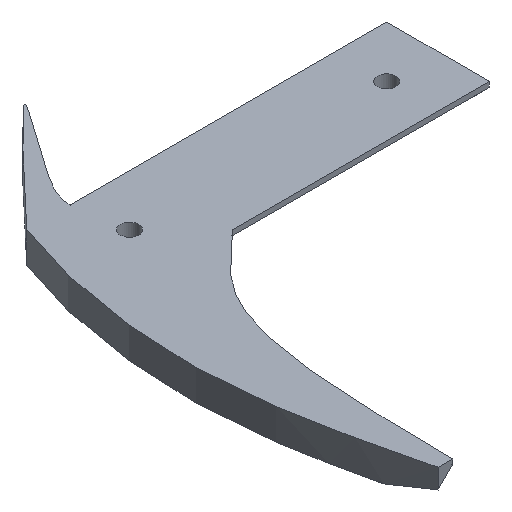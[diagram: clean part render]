
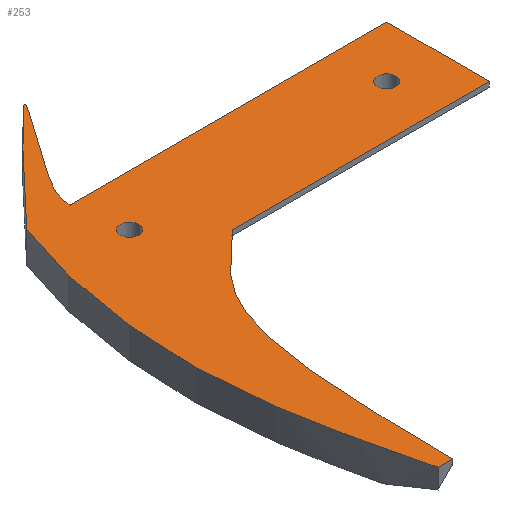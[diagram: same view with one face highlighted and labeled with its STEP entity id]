
A CAD part, isometric view. The second image highlights one B-rep face of the part: STEP entity #253.
In plain terms, the highlighted planar face has unit normal (0, 0, 1).
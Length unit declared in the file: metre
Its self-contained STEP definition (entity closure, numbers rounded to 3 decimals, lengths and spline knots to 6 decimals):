
#12=CIRCLE('',#275,0.0018);
#14=CIRCLE('',#279,0.0018);
#22=PLANE('',#281);
#30=LINE('',#425,#48);
#34=LINE('',#469,#52);
#39=LINE('',#479,#57);
#41=LINE('',#487,#59);
#48=VECTOR('',#293,1.);
#52=VECTOR('',#299,1.);
#57=VECTOR('',#306,1.);
#59=VECTOR('',#316,1.);
#98=ORIENTED_EDGE('',*,*,#132,.T.);
#99=ORIENTED_EDGE('',*,*,#138,.T.);
#100=ORIENTED_EDGE('',*,*,#141,.T.);
#101=ORIENTED_EDGE('',*,*,#144,.F.);
#102=ORIENTED_EDGE('',*,*,#147,.T.);
#103=ORIENTED_EDGE('',*,*,#152,.T.);
#104=ORIENTED_EDGE('',*,*,#156,.F.);
#105=ORIENTED_EDGE('',*,*,#153,.F.);
#106=ORIENTED_EDGE('',*,*,#157,.F.);
#132=EDGE_CURVE('',#167,#166,#189,.T.);
#138=EDGE_CURVE('',#166,#171,#193,.T.);
#141=EDGE_CURVE('',#171,#173,#30,.T.);
#144=EDGE_CURVE('',#175,#173,#196,.T.);
#147=EDGE_CURVE('',#175,#177,#34,.T.);
#152=EDGE_CURVE('',#177,#181,#39,.T.);
#153=EDGE_CURVE('',#182,#182,#12,.T.);
#156=EDGE_CURVE('',#167,#181,#41,.T.);
#157=EDGE_CURVE('',#184,#184,#14,.T.);
#166=VERTEX_POINT('',#364);
#167=VERTEX_POINT('',#374);
#171=VERTEX_POINT('',#411);
#173=VERTEX_POINT('',#424);
#175=VERTEX_POINT('',#458);
#177=VERTEX_POINT('',#468);
#181=VERTEX_POINT('',#478);
#182=VERTEX_POINT('',#482);
#184=VERTEX_POINT('',#490);
#189=B_SPLINE_CURVE_WITH_KNOTS('',3,(#365,#366,#367,#368,#369,#370,#371,
#372,#373),.UNSPECIFIED.,.F.,.F.,(4,3,1,1,4),(-0.273448,0.,0.183762,
0.550377,1.),.UNSPECIFIED.);
#193=B_SPLINE_CURVE_WITH_KNOTS('',3,(#412,#413,#414,#415,#416),
 .UNSPECIFIED.,.F.,.F.,(4,1,4),(0.,0.484333,1.),.UNSPECIFIED.);
#196=B_SPLINE_CURVE_WITH_KNOTS('',3,(#459,#460,#461,#462,#463),
 .UNSPECIFIED.,.F.,.F.,(4,1,4),(0.,0.394754,1.),.UNSPECIFIED.);
#211=EDGE_LOOP('',(#98,#99,#100,#101,#102,#103,#104));
#212=EDGE_LOOP('',(#105));
#213=EDGE_LOOP('',(#106));
#231=FACE_BOUND('',#211,.T.);
#232=FACE_BOUND('',#212,.T.);
#233=FACE_BOUND('',#213,.T.);
#253=ADVANCED_FACE('',(#231,#232,#233),#22,.T.);
#275=AXIS2_PLACEMENT_3D('',#481,#309,#310);
#279=AXIS2_PLACEMENT_3D('',#489,#319,#320);
#281=AXIS2_PLACEMENT_3D('',#493,#323,#324);
#293=DIRECTION('',(1.,0.,0.));
#299=DIRECTION('',(1.,0.,0.));
#306=DIRECTION('',(0.,1.,0.));
#309=DIRECTION('',(0.,0.,1.));
#310=DIRECTION('',(1.,0.,0.));
#316=DIRECTION('',(1.,0.,0.));
#319=DIRECTION('',(0.,0.,1.));
#320=DIRECTION('',(1.,0.,0.));
#323=DIRECTION('',(0.,0.,1.));
#324=DIRECTION('',(1.,0.,0.));
#364=CARTESIAN_POINT('',(-0.427307,-0.064412,0.006));
#365=CARTESIAN_POINT('',(-0.419056,-0.069555,0.006));
#366=CARTESIAN_POINT('',(-0.418998,-0.067841,0.006));
#367=CARTESIAN_POINT('',(-0.418939,-0.066127,0.006));
#368=CARTESIAN_POINT('',(-0.418881,-0.064412,0.006));
#369=CARTESIAN_POINT('',(-0.418842,-0.06326,0.006));
#370=CARTESIAN_POINT('',(-0.418725,-0.05981,0.006));
#371=CARTESIAN_POINT('',(-0.397049,-0.032229,0.006));
#372=CARTESIAN_POINT('',(-0.416559,-0.052981,0.006));
#373=CARTESIAN_POINT('',(-0.427307,-0.064412,0.006));
#374=CARTESIAN_POINT('',(-0.418881,-0.064412,0.006));
#411=CARTESIAN_POINT('',(-0.427307,-0.144412,0.006));
#412=CARTESIAN_POINT('',(-0.427307,-0.064412,0.006));
#413=CARTESIAN_POINT('',(-0.430948,-0.073272,0.006));
#414=CARTESIAN_POINT('',(-0.437262,-0.103818,0.006));
#415=CARTESIAN_POINT('',(-0.430865,-0.129995,0.006));
#416=CARTESIAN_POINT('',(-0.427307,-0.144412,0.006));
#424=CARTESIAN_POINT('',(-0.424477,-0.144412,0.006));
#425=CARTESIAN_POINT('',(-0.425892,-0.144412,0.006));
#458=CARTESIAN_POINT('',(-0.407307,-0.084412,0.006));
#459=CARTESIAN_POINT('',(-0.407307,-0.084412,0.006));
#460=CARTESIAN_POINT('',(-0.412169,-0.08883,0.006));
#461=CARTESIAN_POINT('',(-0.424028,-0.097949,0.006));
#462=CARTESIAN_POINT('',(-0.424276,-0.127577,0.006));
#463=CARTESIAN_POINT('',(-0.424477,-0.144412,0.006));
#468=CARTESIAN_POINT('',(-0.357307,-0.084412,0.006));
#469=CARTESIAN_POINT('',(-0.382307,-0.084412,0.006));
#478=CARTESIAN_POINT('',(-0.357307,-0.064412,0.006));
#479=CARTESIAN_POINT('',(-0.357307,-0.074412,0.006));
#481=CARTESIAN_POINT('',(-0.367307,-0.074412,0.006));
#482=CARTESIAN_POINT('',(-0.365507,-0.074412,0.006));
#487=CARTESIAN_POINT('',(-0.388094,-0.064412,0.006));
#489=CARTESIAN_POINT('',(-0.417307,-0.074412,0.006));
#490=CARTESIAN_POINT('',(-0.415507,-0.074412,0.006));
#493=CARTESIAN_POINT('',(-0.397284,-0.093742,0.006));
